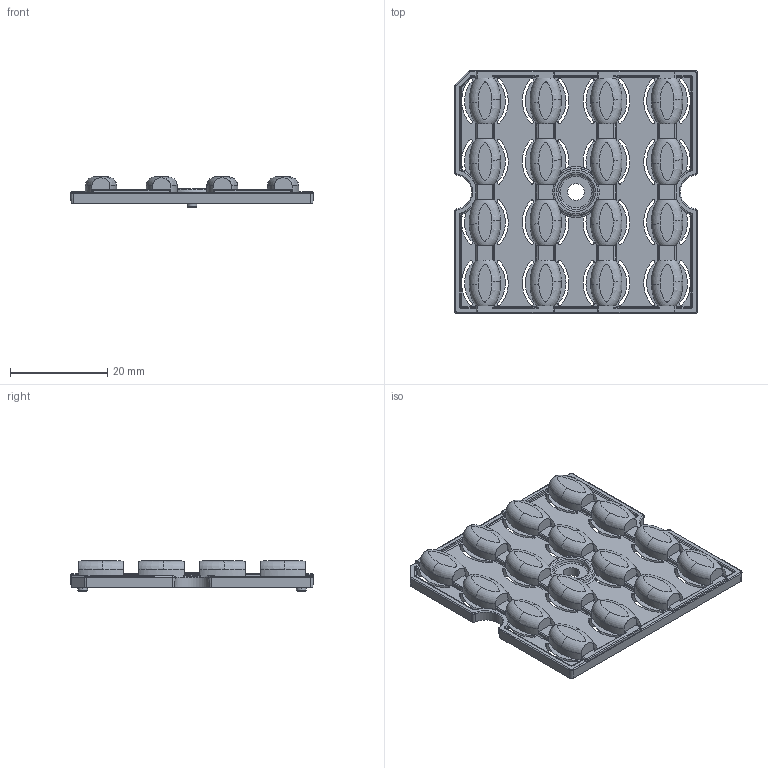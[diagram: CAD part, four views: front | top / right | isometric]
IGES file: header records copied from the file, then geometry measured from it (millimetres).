
Global section: file name: C:\CoreTechnologie\3D-In/022YR09Y02.igs; native system: CT CoreTechnologie 3D Evolution; preprocessor: 2006; author: CT CoreTechnologie; organization: CT CoreTechnologie; date: 220321.144604; units: millimetre
Bounding box: 49.98 x 49.98 x 6.2 mm (x, y, z)
Volume: 6183.6 mm3; surface area: 7710.1 mm2
Topology: 1 solids, 1 shells, 1127 faces, 3101 edges, 1998 vertices
Faces by surface type: revolution 431, plane 429, bspline 267
